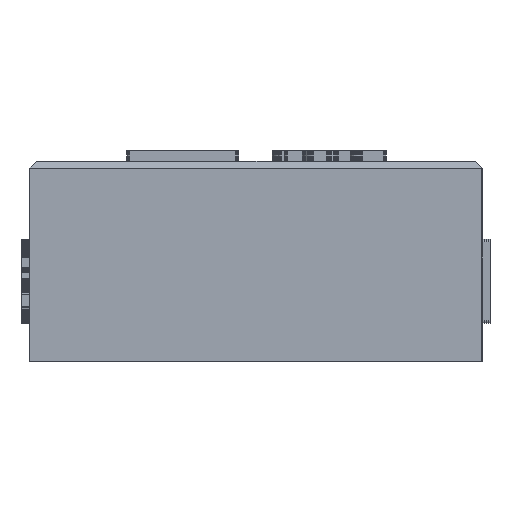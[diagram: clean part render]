
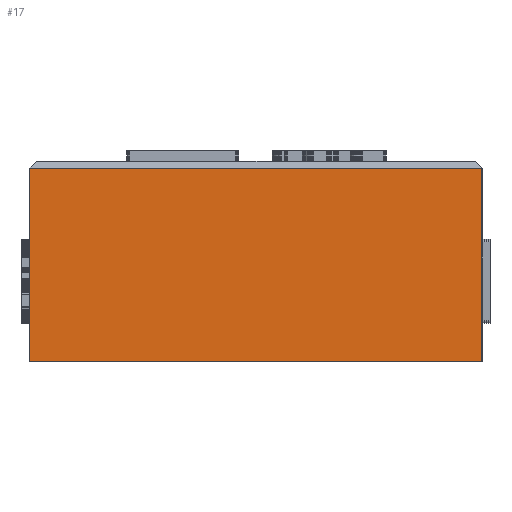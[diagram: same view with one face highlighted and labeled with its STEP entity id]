
A CAD part, left-side view. The second image highlights one B-rep face of the part: STEP entity #17.
In plain terms, the highlighted planar face has unit normal (-1, 0, 0).
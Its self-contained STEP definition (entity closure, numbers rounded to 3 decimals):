
#17 = ADVANCED_FACE('',(#18),#32,.F.);
#18 = FACE_BOUND('',#19,.F.);
#19 = EDGE_LOOP('',(#20,#55,#83,#111));
#20 = ORIENTED_EDGE('',*,*,#21,.F.);
#21 = EDGE_CURVE('',#22,#24,#26,.T.);
#22 = VERTEX_POINT('',#23);
#23 = CARTESIAN_POINT('',(-79.25,-16.95,-15.));
#24 = VERTEX_POINT('',#25);
#25 = CARTESIAN_POINT('',(-79.25,-16.95,-0.5));
#26 = SURFACE_CURVE('',#27,(#31,#43),.PCURVE_S1.);
#27 = LINE('',#28,#29);
#28 = CARTESIAN_POINT('',(-79.25,-16.95,-15.));
#29 = VECTOR('',#30,1.);
#30 = DIRECTION('',(0.,0.,1.));
#31 = PCURVE('',#32,#37);
#32 = PLANE('',#33);
#33 = AXIS2_PLACEMENT_3D('',#34,#35,#36);
#34 = CARTESIAN_POINT('',(-79.25,-16.95,-3.));
#35 = DIRECTION('',(1.,0.,-0.));
#36 = DIRECTION('',(0.,0.,1.));
#37 = DEFINITIONAL_REPRESENTATION('',(#38),#42);
#38 = LINE('',#39,#40);
#39 = CARTESIAN_POINT('',(-12.,0.));
#40 = VECTOR('',#41,1.);
#41 = DIRECTION('',(1.,0.));
#42 = ( GEOMETRIC_REPRESENTATION_CONTEXT(2) 
PARAMETRIC_REPRESENTATION_CONTEXT() REPRESENTATION_CONTEXT('2D SPACE',''
  ) );
#43 = PCURVE('',#44,#49);
#44 = PLANE('',#45);
#45 = AXIS2_PLACEMENT_3D('',#46,#47,#48);
#46 = CARTESIAN_POINT('',(-79.25,-16.95,-3.));
#47 = DIRECTION('',(-0.,1.,0.));
#48 = DIRECTION('',(0.,0.,1.));
#49 = DEFINITIONAL_REPRESENTATION('',(#50),#54);
#50 = LINE('',#51,#52);
#51 = CARTESIAN_POINT('',(-12.,0.));
#52 = VECTOR('',#53,1.);
#53 = DIRECTION('',(1.,0.));
#54 = ( GEOMETRIC_REPRESENTATION_CONTEXT(2) 
PARAMETRIC_REPRESENTATION_CONTEXT() REPRESENTATION_CONTEXT('2D SPACE',''
  ) );
#55 = ORIENTED_EDGE('',*,*,#56,.T.);
#56 = EDGE_CURVE('',#22,#57,#59,.T.);
#57 = VERTEX_POINT('',#58);
#58 = CARTESIAN_POINT('',(-79.25,16.95,-15.));
#59 = SURFACE_CURVE('',#60,(#64,#71),.PCURVE_S1.);
#60 = LINE('',#61,#62);
#61 = CARTESIAN_POINT('',(-79.25,-16.95,-15.));
#62 = VECTOR('',#63,1.);
#63 = DIRECTION('',(-0.,1.,0.));
#64 = PCURVE('',#32,#65);
#65 = DEFINITIONAL_REPRESENTATION('',(#66),#70);
#66 = LINE('',#67,#68);
#67 = CARTESIAN_POINT('',(-12.,0.));
#68 = VECTOR('',#69,1.);
#69 = DIRECTION('',(0.,-1.));
#70 = ( GEOMETRIC_REPRESENTATION_CONTEXT(2) 
PARAMETRIC_REPRESENTATION_CONTEXT() REPRESENTATION_CONTEXT('2D SPACE',''
  ) );
#71 = PCURVE('',#72,#77);
#72 = PLANE('',#73);
#73 = AXIS2_PLACEMENT_3D('',#74,#75,#76);
#74 = CARTESIAN_POINT('',(-79.25,-16.95,-15.));
#75 = DIRECTION('',(0.,0.,1.));
#76 = DIRECTION('',(1.,0.,-0.));
#77 = DEFINITIONAL_REPRESENTATION('',(#78),#82);
#78 = LINE('',#79,#80);
#79 = CARTESIAN_POINT('',(0.,0.));
#80 = VECTOR('',#81,1.);
#81 = DIRECTION('',(0.,1.));
#82 = ( GEOMETRIC_REPRESENTATION_CONTEXT(2) 
PARAMETRIC_REPRESENTATION_CONTEXT() REPRESENTATION_CONTEXT('2D SPACE',''
  ) );
#83 = ORIENTED_EDGE('',*,*,#84,.F.);
#84 = EDGE_CURVE('',#85,#57,#87,.T.);
#85 = VERTEX_POINT('',#86);
#86 = CARTESIAN_POINT('',(-79.25,16.95,-0.5));
#87 = SURFACE_CURVE('',#88,(#92,#99),.PCURVE_S1.);
#88 = LINE('',#89,#90);
#89 = CARTESIAN_POINT('',(-79.25,16.95,0.));
#90 = VECTOR('',#91,1.);
#91 = DIRECTION('',(0.,0.,-1.));
#92 = PCURVE('',#32,#93);
#93 = DEFINITIONAL_REPRESENTATION('',(#94),#98);
#94 = LINE('',#95,#96);
#95 = CARTESIAN_POINT('',(3.,-33.9));
#96 = VECTOR('',#97,1.);
#97 = DIRECTION('',(-1.,0.));
#98 = ( GEOMETRIC_REPRESENTATION_CONTEXT(2) 
PARAMETRIC_REPRESENTATION_CONTEXT() REPRESENTATION_CONTEXT('2D SPACE',''
  ) );
#99 = PCURVE('',#100,#105);
#100 = PLANE('',#101);
#101 = AXIS2_PLACEMENT_3D('',#102,#103,#104);
#102 = CARTESIAN_POINT('',(-79.25,16.95,-3.));
#103 = DIRECTION('',(-0.,1.,0.));
#104 = DIRECTION('',(0.,0.,1.));
#105 = DEFINITIONAL_REPRESENTATION('',(#106),#110);
#106 = LINE('',#107,#108);
#107 = CARTESIAN_POINT('',(3.,0.));
#108 = VECTOR('',#109,1.);
#109 = DIRECTION('',(-1.,0.));
#110 = ( GEOMETRIC_REPRESENTATION_CONTEXT(2) 
PARAMETRIC_REPRESENTATION_CONTEXT() REPRESENTATION_CONTEXT('2D SPACE',''
  ) );
#111 = ORIENTED_EDGE('',*,*,#112,.F.);
#112 = EDGE_CURVE('',#24,#85,#113,.T.);
#113 = SURFACE_CURVE('',#114,(#118,#125),.PCURVE_S1.);
#114 = LINE('',#115,#116);
#115 = CARTESIAN_POINT('',(-79.25,-16.95,-0.5));
#116 = VECTOR('',#117,1.);
#117 = DIRECTION('',(-0.,1.,0.));
#118 = PCURVE('',#32,#119);
#119 = DEFINITIONAL_REPRESENTATION('',(#120),#124);
#120 = LINE('',#121,#122);
#121 = CARTESIAN_POINT('',(2.5,0.));
#122 = VECTOR('',#123,1.);
#123 = DIRECTION('',(0.,-1.));
#124 = ( GEOMETRIC_REPRESENTATION_CONTEXT(2) 
PARAMETRIC_REPRESENTATION_CONTEXT() REPRESENTATION_CONTEXT('2D SPACE',''
  ) );
#125 = PCURVE('',#126,#131);
#126 = PLANE('',#127);
#127 = AXIS2_PLACEMENT_3D('',#128,#129,#130);
#128 = CARTESIAN_POINT('',(-79.,-16.95,-0.25));
#129 = DIRECTION('',(0.707,0.,-0.707));
#130 = DIRECTION('',(0.,1.,0.));
#131 = DEFINITIONAL_REPRESENTATION('',(#132),#136);
#132 = LINE('',#133,#134);
#133 = CARTESIAN_POINT('',(0.,-0.354));
#134 = VECTOR('',#135,1.);
#135 = DIRECTION('',(1.,0.));
#136 = ( GEOMETRIC_REPRESENTATION_CONTEXT(2) 
PARAMETRIC_REPRESENTATION_CONTEXT() REPRESENTATION_CONTEXT('2D SPACE',''
  ) );
